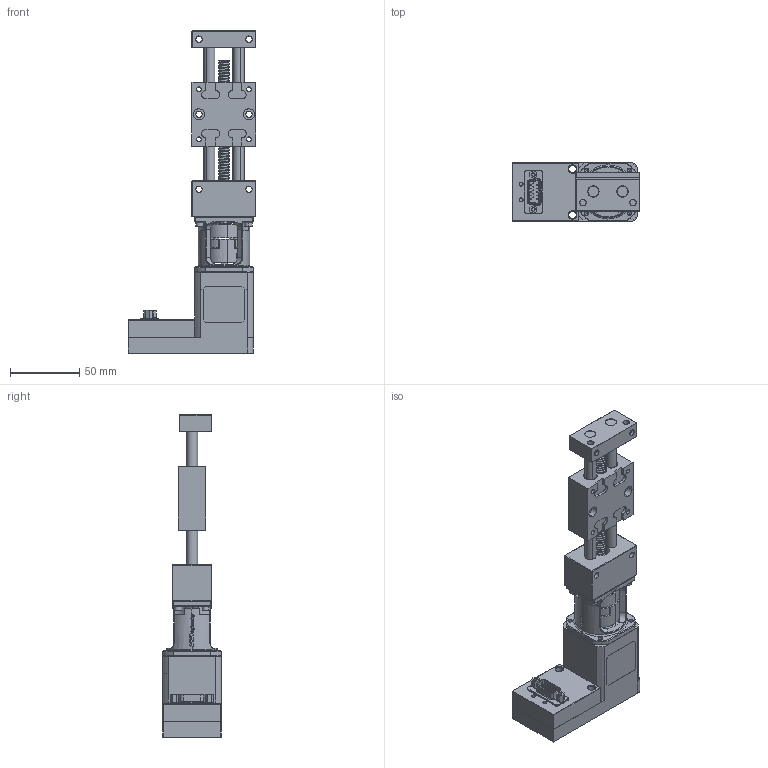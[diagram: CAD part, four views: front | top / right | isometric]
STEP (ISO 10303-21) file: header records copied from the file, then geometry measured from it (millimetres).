
FILE_DESCRIPTION (( 'STEP AP203' ), '1' );
FILE_NAME ('MPT5008-AK-S.STEP', '2015-12-11T10:02:17', ( '' ), ( '' ), 'SwSTEP 2.0', 'SolidWorks 2014', '' );
FILE_SCHEMA (( 'CONFIG_CONTROL_DESIGN' ));
Length unit declared in the file: millimetre
Products named in the file (4): MPT08-000-02-Schlitten-komplett; Schrittmotor-mit-Steuerung-GSMS17_n_Standard; MPT5008-AK-S; MPT5008-000-01-Festteil-AK
Assembly tree (3 placements, depth 2):
  MPT5008-AK-S
    MPT5008-000-01-Festteil-AK
    MPT08-000-02-Schlitten-komplett
    Schrittmotor-mit-Steuerung-GSMS17_n_Standard
Bounding box: 92 x 42 x 232 mm (x, y, z)
Volume: 114292.6 mm3; surface area: 83167.3 mm2
Topology: 2 solids, 39 shells, 2011 faces, 5346 edges, 3456 vertices
Faces by surface type: cylinder 749, plane 633, bspline 325, cone 221, torus 68, sphere 15
Entity records: 113163 total; most frequent: CARTESIAN_POINT 67249, ORIENTED_EDGE 10512, DIRECTION 7866, EDGE_CURVE 5272, VERTEX_POINT 3441, AXIS2_PLACEMENT_3D 2928, EDGE_LOOP 2234, ADVANCED_FACE 2011
